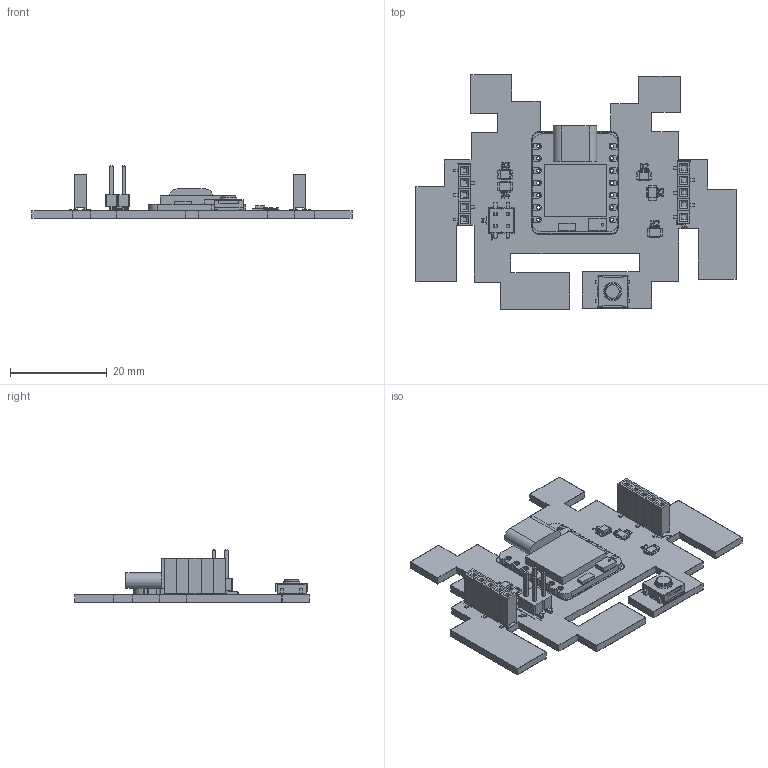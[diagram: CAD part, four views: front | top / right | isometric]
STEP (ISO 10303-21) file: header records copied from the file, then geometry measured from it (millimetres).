
FILE_DESCRIPTION(('KiCad electronic assembly'),'2;1');
FILE_NAME('board.step','2025-03-04T16:00:07',('Pcbnew'),('Kicad'), 'Open CASCADE STEP processor 7.8','KiCad to STEP converter','Unknown' );
FILE_SCHEMA(('AUTOMOTIVE_DESIGN { 1 0 10303 214 1 1 1 1 }'));
Length unit declared in the file: millimetre
Products named in the file (52): board 1; PinSocket-01x05_P2.54mm_Vertical_SMD; board 1.1.1; board 1.1.2; board 1.1.3; board 1.1.4; board 1.1.5; LED-1206; Base; Emmiter; Contact_1; Contact_2; Switch_Omron-B3SN-3112P; Leads; Lead; Body002; Body003; Body004; Button; Cover; Resistor-1206; Ceramic; Contacts; Contacts (Mirror #1); Overcoat; Seeed_XIAO-nRF52840_Sense; SoC_nRF_Sense; Mic_nRF_Sense; Antenna_nRF_Sense; XIAO_Generic; Board; USB; Contact; Contact Clones; Body007; Body008; Body009; Body010; Body011; Body012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
Assembly tree (55 placements, depth 5):
  board 1
    PinSocket-01x05_P2.54mm_Vertical_SMD  x2
      board 1.1.1
      board 1.1.2
      board 1.1.3
      board 1.1.4
      board 1.1.5
    LED-1206  x2
      Base
      Emmiter
      Contact_1
      Contact_2
    Switch_Omron-B3SN-3112P
      Base
      Leads
        Lead
        Body002
        Body003
        Body004
      Button
      Cover
    Resistor-1206  x3
      Ceramic
      Contacts
      Contacts (Mirror #1)
      Overcoat
    Seeed_XIAO-nRF52840_Sense
      SoC_nRF_Sense
      Mic_nRF_Sense
      Antenna_nRF_Sense
      XIAO_Generic
        Board
        USB
        Contact
        Contact Clones
          Body007
          Body008
          Body009
          Body010
          Body011
          Body012
          Body013
          Body014
          Body015
          Body016
          Body017
          Body018
          Body019
    PinHeader_2x02_P2.54mm_Vertical_SMD
    board_silkscreen
    board_soldermask
    board_PCB
Bounding box: 66.32 x 48.63 x 10.95 mm (x, y, z)
Volume: 4481.6 mm3; surface area: 12345.2 mm2
Topology: 68 solids, 137 shells, 1089 faces, 3534 edges, 2669 vertices
Faces by surface type: plane 904, cylinder 181, torus 3, cone 1
Full cylindrical faces by diameter (mm): 0.5 x1, 0.7 x14, 0.8 x42, 3 x2
Entity records: 34665 total; most frequent: CARTESIAN_POINT 6129, DIRECTION 5333, ORIENTED_EDGE 4880, EDGE_CURVE 2942, LINE 2307, VECTOR 2307, VERTEX_POINT 2281, AXIS2_PLACEMENT_3D 1513
